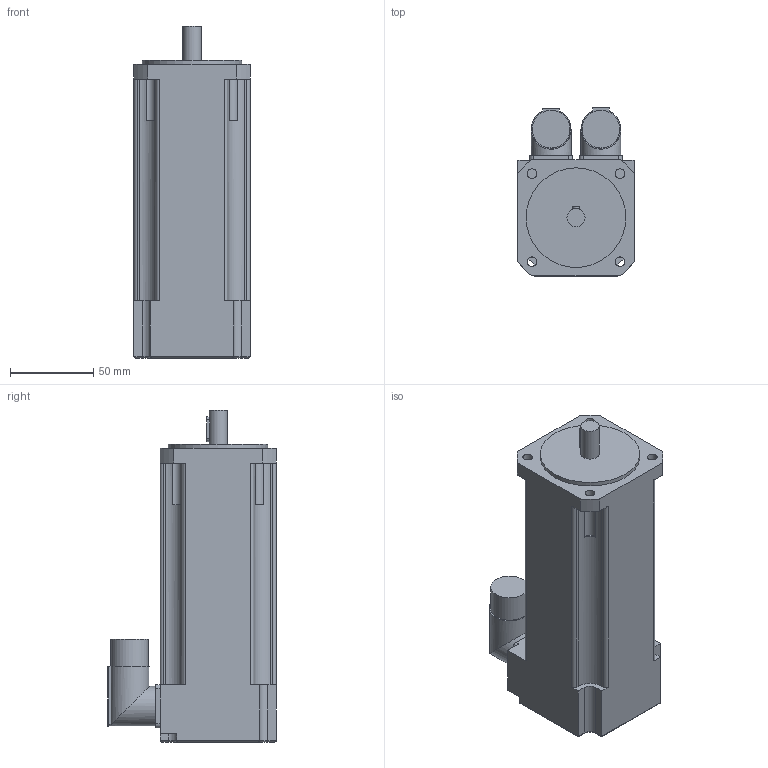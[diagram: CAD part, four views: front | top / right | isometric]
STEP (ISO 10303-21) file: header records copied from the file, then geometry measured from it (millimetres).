
FILE_DESCRIPTION(/* description */ (''),/* implementation_level */ '2;1');
FILE_NAME(/* name */ '\\Lafnas01\disegni\Archivi Lafert\3D\CAD 3D\MODELLI\Assiemi clienti\Serad\Modelli 3D Serad\B36Q\Resolver\Res With Brake\B36E8Qxx6B052033.ipt.stp',/* time_stamp */ '2015-09-07T10:49:30+02:00',/* author */ ('Pastrello Ylenia'),/* organization */ (''),/* preprocessor_version */ 'ST-DEVELOPER v15.6',/* originating_system */ 'Autodesk Inventor 2015',/* authorisation */ '');
FILE_SCHEMA (('AUTOMOTIVE_DESIGN { 1 0 10303 214 3 1 1 }'));
Length unit declared in the file: millimetre
Products named in the file (1): B36E8Qxx6B052033
Bounding box: 70 x 101.5 x 200 mm (x, y, z)
Volume: 833021.5 mm3; surface area: 67380.9 mm2
Topology: 1 solids, 1 shells, 121 faces, 322 edges, 210 vertices
Faces by surface type: plane 59, cylinder 58, torus 4
Full cylindrical faces by diameter (mm): 5.8 x4, 11 x1, 22.7 x2, 24 x2, 60 x1
Entity records: 3806 total; most frequent: CARTESIAN_POINT 678, DIRECTION 676, ORIENTED_EDGE 624, EDGE_CURVE 312, AXIS2_PLACEMENT_3D 244, VERTEX_POINT 210, LINE 188, VECTOR 188
